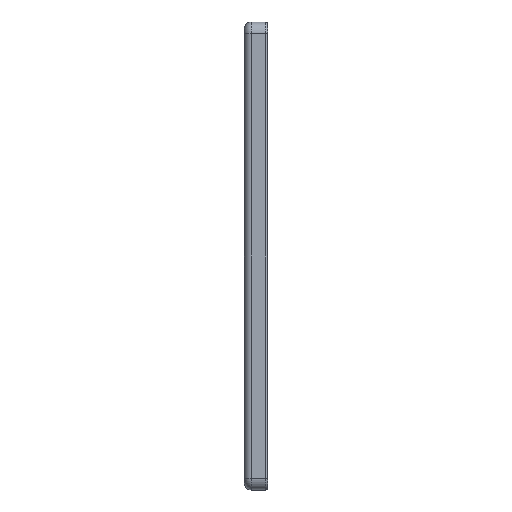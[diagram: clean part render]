
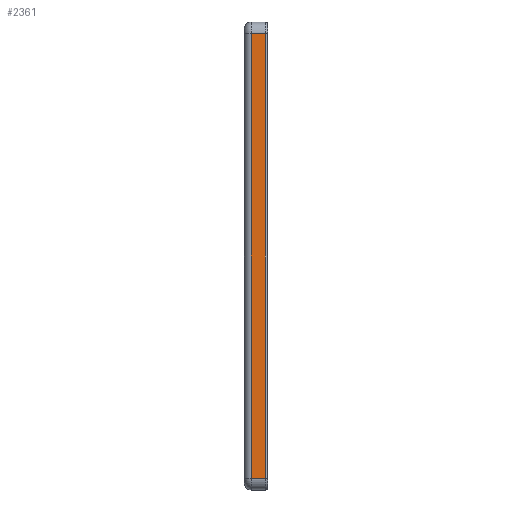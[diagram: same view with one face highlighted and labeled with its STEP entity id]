
A CAD part, left-side view. The second image highlights one B-rep face of the part: STEP entity #2361.
In plain terms, the highlighted planar face has unit normal (-1, 0, 0).
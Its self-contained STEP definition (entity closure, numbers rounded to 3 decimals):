
#1259 = FACE_OUTER_BOUND ( 'NONE', #1931, .T. ) ;
#1931 = EDGE_LOOP ( 'NONE', ( #4348, #4341, #4431, #4385 ) ) ;
#2202 = AXIS2_PLACEMENT_3D ( 'NONE', #3137, #3145, #3146 ) ;
#2361 = ADVANCED_FACE ( 'NONE', ( #1259 ), #3142, .F. ) ;
#2451 = VERTEX_POINT ( 'NONE', #4158 ) ;
#2452 = VERTEX_POINT ( 'NONE', #4159 ) ;
#2579 = LINE ( 'NONE', #4265, #2581 ) ;
#2581 = VECTOR ( 'NONE', #4273, 1000. ) ;
#2586 = LINE ( 'NONE', #4281, #2590 ) ;
#2590 = VECTOR ( 'NONE', #4277, 1000. ) ;
#2640 = LINE ( 'NONE', #3743, #2644 ) ;
#2643 = LINE ( 'NONE', #3746, #2645 ) ;
#2644 = VECTOR ( 'NONE', #3764, 1000. ) ;
#2645 = VECTOR ( 'NONE', #3761, 1000. ) ;
#2810 = VERTEX_POINT ( 'NONE', #4554 ) ;
#2814 = VERTEX_POINT ( 'NONE', #4556 ) ;
#3137 = CARTESIAN_POINT ( 'NONE',  ( -150., 5., 95. ) ) ;
#3142 = PLANE ( 'NONE',  #2202 ) ;
#3145 = DIRECTION ( 'NONE',  ( 1., 0., 0. ) ) ;
#3146 = DIRECTION ( 'NONE',  ( 0., 0., -1. ) ) ;
#3168 = EDGE_CURVE ( 'NONE', #2810, #2814, #2579, .T. ) ;
#3174 = EDGE_CURVE ( 'NONE', #2451, #2814, #2586, .T. ) ;
#3216 = EDGE_CURVE ( 'NONE', #2810, #2452, #2643, .T. ) ;
#3217 = EDGE_CURVE ( 'NONE', #2452, #2451, #2640, .T. ) ;
#3743 = CARTESIAN_POINT ( 'NONE',  ( -150., 5., -95. ) ) ;
#3746 = CARTESIAN_POINT ( 'NONE',  ( -150., 2., 95. ) ) ;
#3761 = DIRECTION ( 'NONE',  ( 0., 0., -1. ) ) ;
#3764 = DIRECTION ( 'NONE',  ( 0., -1., 0. ) ) ;
#4158 = CARTESIAN_POINT ( 'NONE',  ( -150., -4., -95. ) ) ;
#4159 = CARTESIAN_POINT ( 'NONE',  ( -150., 2., -95. ) ) ;
#4265 = CARTESIAN_POINT ( 'NONE',  ( -150., 5., 95. ) ) ;
#4273 = DIRECTION ( 'NONE',  ( 0., -1., 0. ) ) ;
#4277 = DIRECTION ( 'NONE',  ( 0., 0., 1. ) ) ;
#4281 = CARTESIAN_POINT ( 'NONE',  ( -150., -4., 95. ) ) ;
#4341 = ORIENTED_EDGE ( 'NONE', *, *, #3174, .T. ) ;
#4348 = ORIENTED_EDGE ( 'NONE', *, *, #3217, .T. ) ;
#4385 = ORIENTED_EDGE ( 'NONE', *, *, #3216, .T. ) ;
#4431 = ORIENTED_EDGE ( 'NONE', *, *, #3168, .F. ) ;
#4554 = CARTESIAN_POINT ( 'NONE',  ( -150., 2., 95. ) ) ;
#4556 = CARTESIAN_POINT ( 'NONE',  ( -150., -4., 95. ) ) ;
